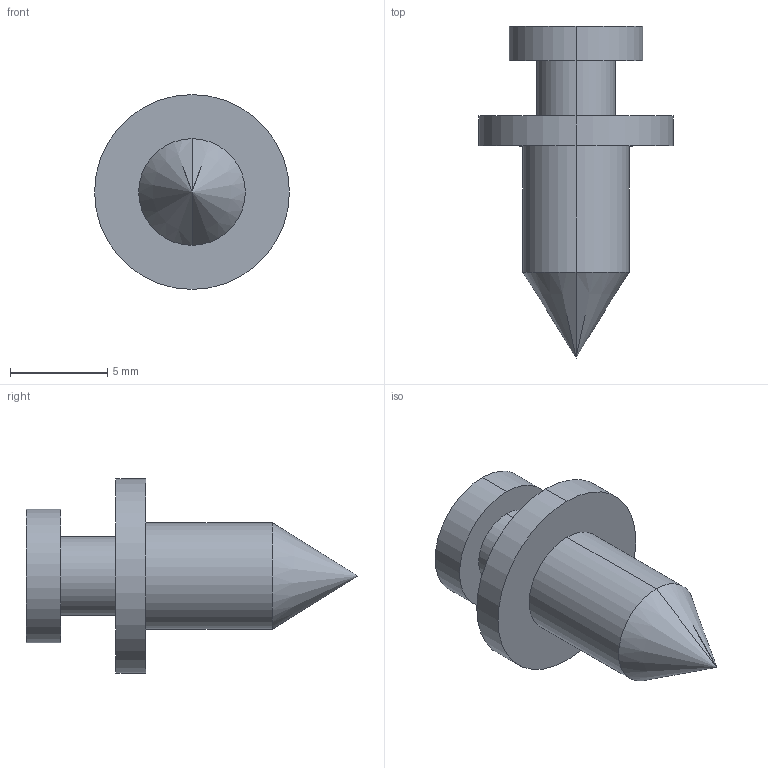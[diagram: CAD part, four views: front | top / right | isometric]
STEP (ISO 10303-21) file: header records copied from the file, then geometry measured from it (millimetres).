
FILE_DESCRIPTION (( 'STEP AP214' ), '1' );
FILE_NAME ('5067_V01_REF_PRT_SH_SCR.STEP', '2026-01-20T15:10:10', ( '' ), ( '' ), 'SwSTEP 2.0', 'SolidWorks 2025', '' );
FILE_SCHEMA (( 'AUTOMOTIVE_DESIGN' ));
Length unit declared in the file: inch
Products named in the file (1): 5067_V01_REF_PRT_SH_SCR
Bounding box: 10.03 x 17.09 x 10.03 mm (x, y, z)
Volume: 413.2 mm3; surface area: 462.6 mm2
Topology: 1 solids, 1 shells, 14 faces, 28 edges, 17 vertices
Faces by surface type: cylinder 8, plane 4, cone 2
Entity records: 385 total; most frequent: DIRECTION 72, CARTESIAN_POINT 58, ORIENTED_EDGE 52, AXIS2_PLACEMENT_3D 31, EDGE_CURVE 26, EDGE_LOOP 17, VERTEX_POINT 17, CIRCLE 16
